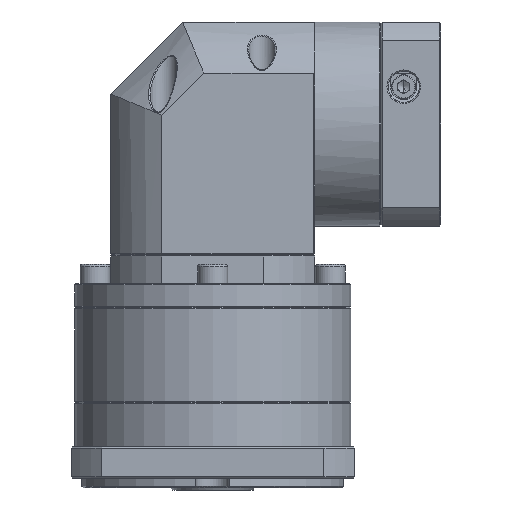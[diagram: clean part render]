
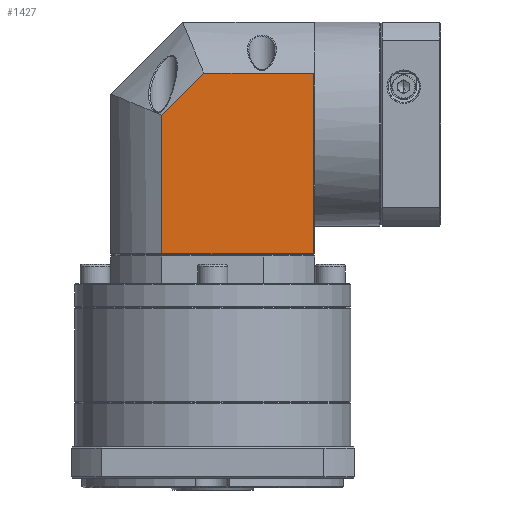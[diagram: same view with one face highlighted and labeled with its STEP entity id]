
A CAD part, front view. The second image highlights one B-rep face of the part: STEP entity #1427.
In plain terms, the highlighted planar face has unit normal (0, -1, 0).
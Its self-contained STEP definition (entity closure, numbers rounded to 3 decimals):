
#1086 = ORIENTED_EDGE ( 'NONE', *, *, #96992, .F. ) ;
#1427 = ADVANCED_FACE ( 'NONE', ( #44263 ), #92858, .F. ) ;
#2099 = VECTOR ( 'NONE', #46459, 1000. ) ;
#8528 = DIRECTION ( 'NONE',  ( 0., 0., 1. ) ) ;
#9318 = VECTOR ( 'NONE', #125603, 1000. ) ;
#14148 = LINE ( 'NONE', #68919, #100341 ) ;
#15635 = AXIS2_PLACEMENT_3D ( 'NONE', #50208, #133275, #18361 ) ;
#16566 = VECTOR ( 'NONE', #8528, 1000. ) ;
#17821 = CARTESIAN_POINT ( 'NONE',  ( 72.781, 72.432, -37.054 ) ) ;
#18277 = LINE ( 'NONE', #61245, #16566 ) ;
#18361 = DIRECTION ( 'NONE',  ( -1., 0., 0. ) ) ;
#18660 = ORIENTED_EDGE ( 'NONE', *, *, #25184, .F. ) ;
#22771 = VERTEX_POINT ( 'NONE', #82857 ) ;
#25184 = EDGE_CURVE ( 'NONE', #62792, #124793, #14148, .T. ) ;
#26770 = DIRECTION ( 'NONE',  ( 0.707, 0., 0.707 ) ) ;
#27496 = CARTESIAN_POINT ( 'NONE',  ( 72.781, 72.432, 59.446 ) ) ;
#33737 = CARTESIAN_POINT ( 'NONE',  ( 27.098, 72.432, 38.159 ) ) ;
#37750 = EDGE_CURVE ( 'NONE', #22771, #50537, #70403, .T. ) ;
#43251 = EDGE_LOOP ( 'NONE', ( #49551, #54629, #1086, #18660, #108970 ) ) ;
#44263 = FACE_OUTER_BOUND ( 'NONE', #43251, .T. ) ;
#46459 = DIRECTION ( 'NONE',  ( 1., 0., 0. ) ) ;
#47111 = VECTOR ( 'NONE', #121469, 1000. ) ;
#49551 = ORIENTED_EDGE ( 'NONE', *, *, #37750, .T. ) ;
#49861 = CARTESIAN_POINT ( 'NONE',  ( 9.568, 72.432, 20.629 ) ) ;
#50208 = CARTESIAN_POINT ( 'NONE',  ( 73.281, 72.432, 59.446 ) ) ;
#50537 = VERTEX_POINT ( 'NONE', #17821 ) ;
#52364 = EDGE_CURVE ( 'NONE', #22771, #62792, #18277, .T. ) ;
#54629 = ORIENTED_EDGE ( 'NONE', *, *, #112908, .F. ) ;
#61245 = CARTESIAN_POINT ( 'NONE',  ( 9.568, 72.432, 59.446 ) ) ;
#62792 = VERTEX_POINT ( 'NONE', #49861 ) ;
#68919 = CARTESIAN_POINT ( 'NONE',  ( 9.568, 72.432, 20.629 ) ) ;
#70403 = LINE ( 'NONE', #89162, #2099 ) ;
#82857 = CARTESIAN_POINT ( 'NONE',  ( 9.568, 72.432, -37.054 ) ) ;
#89162 = CARTESIAN_POINT ( 'NONE',  ( 73.281, 72.432, -37.054 ) ) ;
#92858 = PLANE ( 'NONE',  #15635 ) ;
#96992 = EDGE_CURVE ( 'NONE', #124793, #98618, #103590, .T. ) ;
#98618 = VERTEX_POINT ( 'NONE', #102411 ) ;
#100341 = VECTOR ( 'NONE', #26770, 1000. ) ;
#102411 = CARTESIAN_POINT ( 'NONE',  ( 72.781, 72.432, 38.159 ) ) ;
#103590 = LINE ( 'NONE', #104645, #9318 ) ;
#104645 = CARTESIAN_POINT ( 'NONE',  ( 73.281, 72.432, 38.159 ) ) ;
#108970 = ORIENTED_EDGE ( 'NONE', *, *, #52364, .F. ) ;
#112908 = EDGE_CURVE ( 'NONE', #98618, #50537, #123498, .T. ) ;
#121469 = DIRECTION ( 'NONE',  ( 0., 0., -1. ) ) ;
#123498 = LINE ( 'NONE', #27496, #47111 ) ;
#124793 = VERTEX_POINT ( 'NONE', #33737 ) ;
#125603 = DIRECTION ( 'NONE',  ( 1., 0., 0. ) ) ;
#133275 = DIRECTION ( 'NONE',  ( 0., 1., 0. ) ) ;
